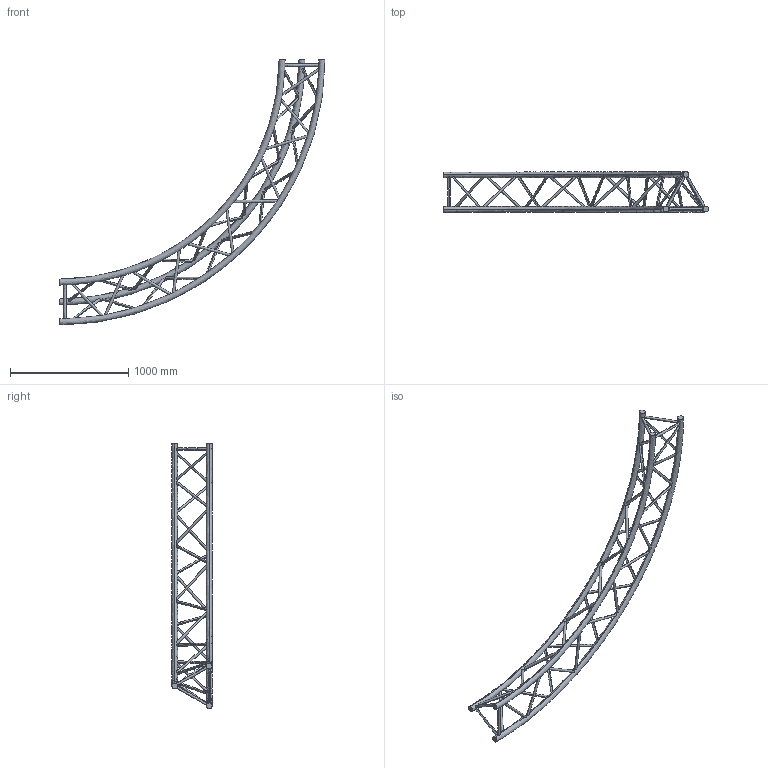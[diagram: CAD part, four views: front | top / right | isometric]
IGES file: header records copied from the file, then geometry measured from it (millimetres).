
Start section: SolidWorks IGES file using analytic representation for surfaces
Global section: file name: K:\BIBLIO\asd_biblio\SX390\Cercles\SXC39PH\SXC39450PH\SXC39450PH.IGS; native system: SolidWorks 2009; preprocessor: SolidWorks 2009; author: des3; date: 091021.132634; units: millimetre
Bounding box: 2250 x 341.85 x 2250 mm (x, y, z)
Surface area: 2379272.1 mm2 (no closed solid volume)
Topology: 0 solids, 0 shells, 90 faces, 6647 edges, 6647 vertices
Faces by surface type: revolution 78, bspline 12
